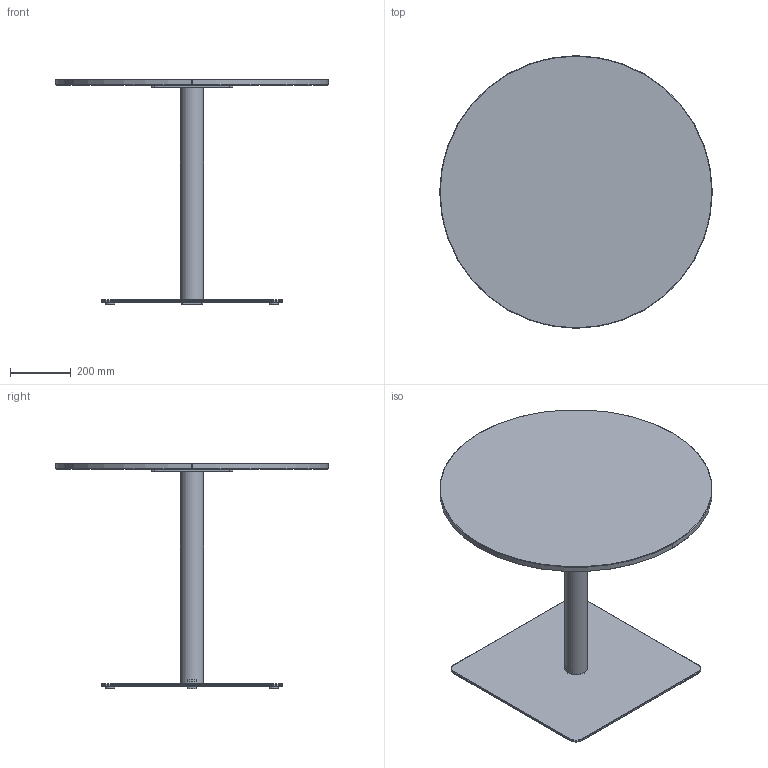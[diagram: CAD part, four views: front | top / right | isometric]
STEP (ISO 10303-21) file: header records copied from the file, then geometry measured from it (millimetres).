
FILE_DESCRIPTION( ('This file contains a STEP AP42 implementation' ,'as created by ZW3D STEP Interface translator.') ,'2;1' );
FILE_NAME( 'Henri - B_Carré - F1 - M1 - 900 x 900 x 750.stp' ,'24 912.161528', (''), ('ZWCAD Software Co.'), 'Version 1.0', 'ZW3D to STEP translator', '' );
FILE_SCHEMA(('AUTOMOTIVE_DESIGN { 1 0 10303 214 1 1 1 1 }'));
Length unit declared in the file: millimetre
Products named in the file (15): 0; PIED BISTROT PARAMETRIQUE_; COLONNE ACIER Ø76 V.02_; TUB-D076-02_; PLA-R76B-01_; CROIX ACIER 370 V.02_; CRX-X370-02_; SOCLE ACIER L 600x600 V.02_; SCL-R600-02_; PLA-R30A-01_; PLA-R30A-01; WUERTH 0276063020 Euro-screw 6.3x2 Verzinkt_; PLATEAU BISTROT PARAMETRIQUE_; insert_m6_13_; insert_m6_13
Assembly tree (22 placements, depth 3):
  0
  PIED BISTROT PARAMETRIQUE_
    COLONNE ACIER Ø76 V.02_
      TUB-D076-02_
      PLA-R76B-01_  x2
    CROIX ACIER 370 V.02_
      CRX-X370-02_
    SOCLE ACIER L 600x600 V.02_
      SCL-R600-02_
      PLA-R30A-01_
      PLA-R30A-01  x3
    WUERTH 0276063020 Euro-screw 6.3x2 Verzinkt_
    PLATEAU BISTROT PARAMETRIQUE_
      insert_m6_13_  x2
      insert_m6_13  x6
Bounding box: 900 x 900 x 744 mm (x, y, z)
Volume: 16536041.4 mm3; surface area: 2581110.9 mm2
Topology: 19 solids, 19 shells, 537 faces, 1310 edges, 822 vertices
Faces by surface type: plane 262, bspline 121, cylinder 98, cone 55, torus 1
Full cylindrical faces by diameter (mm): 4.88 x1, 6 x8, 6.3 x1, 8 x45, 12 x2, 14 x2, 30 x4, 72 x1, 76 x1
Entity records: 13354 total; most frequent: CARTESIAN_POINT 3810, ORIENTED_EDGE 1758, DIRECTION 1624, EDGE_CURVE 879, VERTEX_POINT 558, VECTOR 552, LINE 552, AXIS2_PLACEMENT_3D 536
